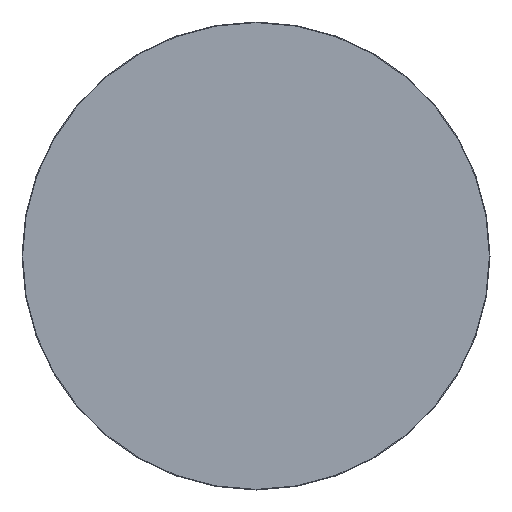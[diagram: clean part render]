
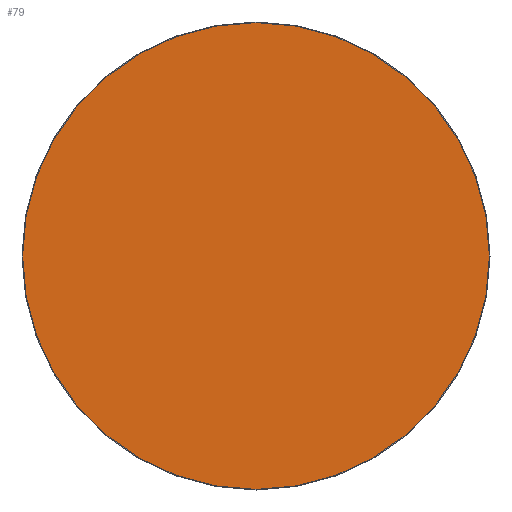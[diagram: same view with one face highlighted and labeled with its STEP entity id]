
A CAD part, front view. The second image highlights one B-rep face of the part: STEP entity #79.
In plain terms, the highlighted planar face has unit normal (0, -1, 0).
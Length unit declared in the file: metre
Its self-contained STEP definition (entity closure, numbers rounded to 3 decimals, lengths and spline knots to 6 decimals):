
#79 = ADVANCED_FACE( '', ( #92 ), #93, .T. );
#92 = FACE_OUTER_BOUND( '', #114, .T. );
#93 = PLANE( '', #115 );
#114 = EDGE_LOOP( '', ( #140 ) );
#115 = AXIS2_PLACEMENT_3D( '', #141, #142, #143 );
#140 = ORIENTED_EDGE( '', *, *, #171, .T. );
#141 = CARTESIAN_POINT( '', ( 0., 0., 0. ) );
#142 = DIRECTION( '', ( 0., -1., 0. ) );
#143 = DIRECTION( '', ( 0., 0., -1. ) );
#171 = EDGE_CURVE( '', #180, #180, #181, .T. );
#180 = VERTEX_POINT( '', #194 );
#181 = CIRCLE( '', #195, 0.0399 );
#194 = CARTESIAN_POINT( '', ( 0., 0., -0.0399 ) );
#195 = AXIS2_PLACEMENT_3D( '', #210, #211, #212 );
#210 = CARTESIAN_POINT( '', ( 0., 0., 0. ) );
#211 = DIRECTION( '', ( 0., -1., 0. ) );
#212 = DIRECTION( '', ( 0., 0., -1. ) );
